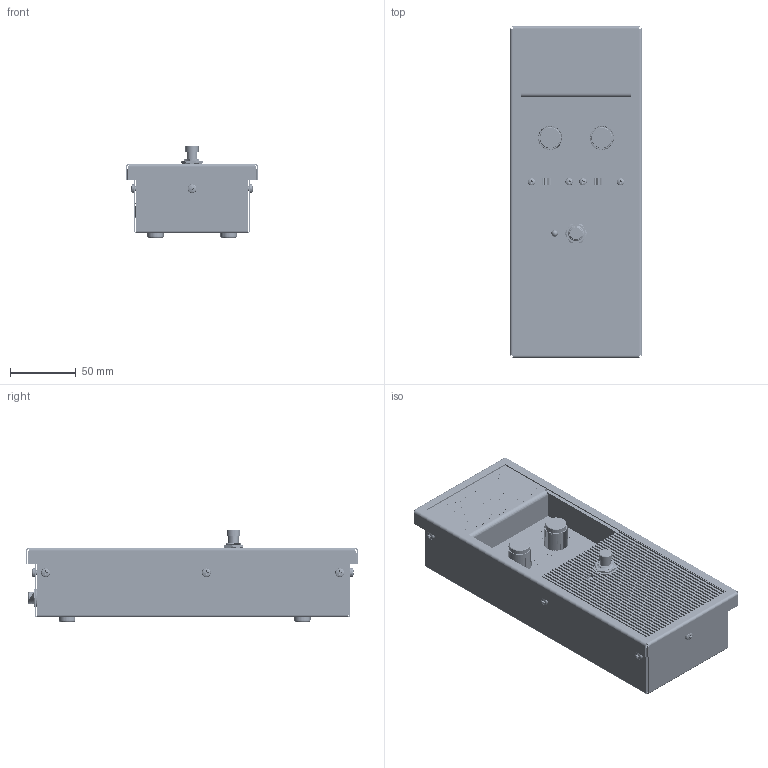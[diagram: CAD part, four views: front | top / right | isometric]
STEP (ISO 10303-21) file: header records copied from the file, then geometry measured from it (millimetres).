
FILE_DESCRIPTION(('CAx-IF Rec.Pracs.---Representation and Presentation of Product Manufa', 'cturing Information (PMI)---4.0---2014-10-13'),'2;1');
FILE_NAME('Open CASCADE Shape Model','2025-02-09T17:42:50',(''),(''), 'Open CASCADE STEP processor 7.6', 'Autodesk Translation Framework v13.20.0.188','Unknown');
FILE_SCHEMA(('AUTOMOTIVE_DESIGN_CC2 { 1 2 10303 214 -1 1 5 4 }'));
Length unit declared in the file: millimetre
Products named in the file (44): Project V v12; Wood Top; Top Frame; LogoBadge; RubberPad; McMasterCarr 9309k13 v1; ControlPlate; Footswitch v2; Large Nut and washer v1; LED 5mm v2; Project V PCB v1; Board_ProjectVPCB; ElCap; Open CASCADE STEP translator 7.6 1.13.2.1; Open CASCADE STEP translator 7.6 1.13.2.2; ElCap (1); Open CASCADE STEP translator 7.6 1.13.9.1; Open CASCADE STEP translator 7.6 1.13.9.2; CAP_DISC_4x3_YL; RES-0.5W-H-MF; TaydaPot1; TO-18,_short_leads_3mm; corvus; corvus_2; 7mm Nut and washer v2; Rippel Knob v2; SlideSwitch v10; Plastic Shuttle; Phenolic; Connectors; Middle Thing; Spring; Silverball; Open CASCADE STEP translator 7.6 1.20.8; Open CASCADE STEP translator 7.6 1.21.8; Type I Cross Recessed Pan Head Machine Screw ANSI B18.6.7M M3x0.5 x 4 
Steel Grade 2 Plain v1; 1/4" Jack A-1121 v1; Nut and washer v2; DCJack v2; Type II Cross Recessed Pan Head Tapping Screw ANSI B18.6.4 6-20 x 
0.375 Type AB Steel Grade 2 Plain v1 ...
Assembly tree (103 placements, depth 4):
  Project V v12
    Wood Top
    Top Frame
    LogoBadge
    RubberPad
    McMasterCarr 9309k13 v1  x4
    ControlPlate
    Footswitch v2
    Large Nut and washer v1
    LED 5mm v2
    Project V PCB v1
      Board_ProjectVPCB
      ElCap  x7
        Open CASCADE STEP translator 7.6 1.13.2.1
        Open CASCADE STEP translator 7.6 1.13.2.2
      ElCap (1)
        Open CASCADE STEP translator 7.6 1.13.9.1
        Open CASCADE STEP translator 7.6 1.13.9.2
      CAP_DISC_4x3_YL  x2
      RES-0.5W-H-MF  x17
      TaydaPot1  x2
      TO-18,_short_leads_3mm  x8
        corvus
        corvus_2
    7mm Nut and washer v2  x4
    Rippel Knob v2  x2
    SlideSwitch v10
      Plastic Shuttle
      Phenolic
      Connectors  x2
      Middle Thing
      Spring
      Silverball
      Open CASCADE STEP translator 7.6 1.20.8
    SlideSwitch v10
      Plastic Shuttle
      Phenolic
      Connectors  x2
      Middle Thing
      Spring
      Silverball
      Open CASCADE STEP translator 7.6 1.21.8
    Type I Cross Recessed Pan Head Machine Screw ANSI B18.6.7M M3x0.5 x 4 
Steel Grade 2 Plain v1  x4
    1/4" Jack A-1121 v1  x2
    Nut and washer v2  x2
    DCJack v2
    Type II Cross Recessed Pan Head Tapping Screw ANSI B18.6.4 6-20 x 
0.375 Type AB Steel Grade 2 Plain v1  x2
    Type I Cross Recessed Pan Head Tapping Screw ANSI B18.6.4 6-20 x 
0.875 Type AB Steel Grade 2 Plain v1  x2
    Type I Cross Recessed Pan Head Tapping Screw ANSI B18.6.4 6-20 x 
0.375 Type AB Steel Grade 2 Plain v1  x8
    Open CASCADE STEP translator 7.6 1.43
Bounding box: 100 x 252 x 70.5 mm (x, y, z)
Volume: 389406.7 mm3; surface area: 336353.6 mm2
Topology: 284 solids, 364 shells, 8336 faces, 22038 edges, 14404 vertices
Faces by surface type: plane 5757, cylinder 1667, torus 355, bspline 305, cone 224, sphere 28
Full cylindrical faces by diameter (mm): 0.45 x8, 0.55 x68, 0.6 x14, 0.7 x44, 0.72 x24, 0.84 x2, 0.9 x23, 1 x43, 1.1 x16, 1.44 x24, 2 x4, 2.1 x1, 2.15 x4, 2.9 x2, 2.927 x4, 3 x14, 3.175 x8, 3.3 x119, 3.442 x12, 3.5 x4, 3.6 x68, 4 x2, 5 x3, 5.6 x4, 6 x4, 6.3 x1, 6.35 x2, 6.351 x26, 6.4 x7, 6.45 x2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
Entity records: 206616 total; most frequent: CARTESIAN_POINT 66056, ORIENTED_EDGE 29593, DIRECTION 26693, EDGE_CURVE 14828, LINE 12111, VECTOR 12111, VERTEX_POINT 9756, AXIS2_PLACEMENT_3D 7291
